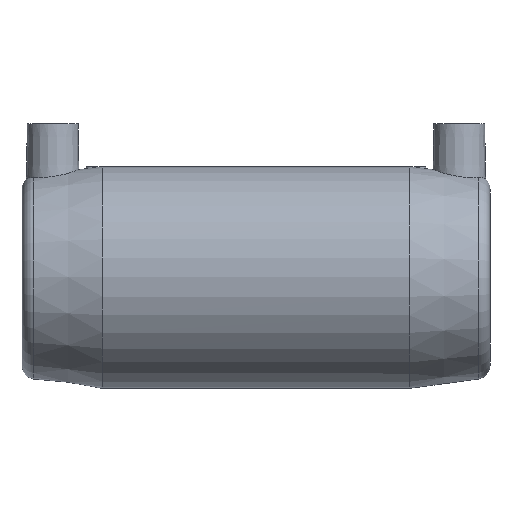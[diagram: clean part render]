
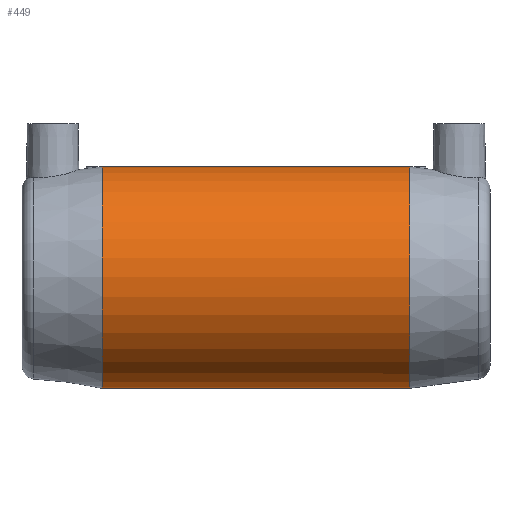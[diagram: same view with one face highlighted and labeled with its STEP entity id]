
A CAD part, front view. The second image highlights one B-rep face of the part: STEP entity #449.
In plain terms, the highlighted cylindrical face has radius 41.5 mm (diameter 83 mm), a full revolution.
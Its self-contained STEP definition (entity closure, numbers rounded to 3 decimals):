
#71=B_SPLINE_CURVE_WITH_KNOTS('',3,(#1060,#1061,#1062,#1063,#1064,#1065,
#1066,#1067,#1068,#1069,#1070,#1071,#1072,#1073,#1074,#1075,#1076,#1077,
#1078,#1079,#1080,#1081,#1082,#1083,#1084,#1085,#1086,#1087,#1088,#1089,
#1090,#1091,#1092,#1093,#1094,#1095,#1096,#1097,#1098,#1099,#1100,#1101,
#1102,#1103,#1104,#1105,#1106,#1107,#1108,#1109,#1110,#1111,#1112,#1113,
#1114,#1115,#1116,#1117,#1118,#1119),.UNSPECIFIED.,.T.,.F.,(1,1,1,1,1,1,
1,1,1,1,1,1,1,1,1,1,1,1,1,1,1,1,1,1,1,1,1,1,1,1,1,1,1,1,1,1,1,1,1,1,1,1,
1,1,1,1,1,1,1,1,1,1,1,1,1,1,1,1,1,1,1,1,1,1),(-0.015,-0.011,
-0.008,0.,0.008,0.011,0.015,
0.023,0.026,0.03,0.034,
0.038,0.041,0.045,0.049,
0.053,0.056,0.06,0.064,
0.068,0.071,0.075,0.079,
0.083,0.087,0.09,0.094,
0.098,0.102,0.105,0.113,
0.117,0.12,0.124,0.128,
0.132,0.135,0.143,0.147,
0.15,0.158,0.162,0.165,
0.169,0.173,0.177,0.181,
0.184,0.188,0.196,0.199,
0.203,0.207,0.211,0.214,
0.218,0.222,0.226,0.229,
0.233,0.241,0.248,0.252,
0.256),.UNSPECIFIED.);
#127=ORIENTED_EDGE('',*,*,#193,.T.);
#128=ORIENTED_EDGE('',*,*,#192,.F.);
#129=ORIENTED_EDGE('',*,*,#197,.T.);
#192=EDGE_CURVE('',#237,#237,#270,.T.);
#193=EDGE_CURVE('',#238,#238,#71,.T.);
#197=EDGE_CURVE('',#242,#242,#273,.T.);
#237=VERTEX_POINT('',#888);
#238=VERTEX_POINT('',#1120);
#242=VERTEX_POINT('',#1137);
#270=CIRCLE('',#513,41.5);
#273=CIRCLE('',#519,41.5);
#325=EDGE_LOOP('',(#127));
#326=EDGE_LOOP('',(#128));
#327=EDGE_LOOP('',(#129));
#393=FACE_BOUND('',#325,.T.);
#394=FACE_BOUND('',#326,.T.);
#395=FACE_BOUND('',#327,.T.);
#423=CYLINDRICAL_SURFACE('',#518,41.5);
#449=ADVANCED_FACE('',(#393,#394,#395),#423,.T.);
#513=AXIS2_PLACEMENT_3D('',#887,#617,#618);
#518=AXIS2_PLACEMENT_3D('',#1135,#627,#628);
#519=AXIS2_PLACEMENT_3D('',#1136,#629,#630);
#617=DIRECTION('',(-1.,0.,0.));
#618=DIRECTION('',(0.,0.,1.));
#627=DIRECTION('',(-1.,0.,0.));
#628=DIRECTION('',(0.,0.,1.));
#629=DIRECTION('',(-1.,0.,0.));
#630=DIRECTION('',(0.,0.,1.));
#887=CARTESIAN_POINT('',(-57.5,0.,0.));
#888=CARTESIAN_POINT('',(-57.5,0.,41.5));
#1060=CARTESIAN_POINT('',(36.545,41.146,-6.291));
#1061=CARTESIAN_POINT('',(37.303,41.736,0.005));
#1062=CARTESIAN_POINT('',(36.546,41.147,6.276));
#1063=CARTESIAN_POINT('',(35.17,40.09,10.917));
#1064=CARTESIAN_POINT('',(33.296,38.669,15.369));
#1065=CARTESIAN_POINT('',(30.836,36.842,19.295));
#1066=CARTESIAN_POINT('',(27.884,34.744,22.759));
#1067=CARTESIAN_POINT('',(25.496,33.107,25.073));
#1068=CARTESIAN_POINT('',(22.923,31.425,27.147));
#1069=CARTESIAN_POINT('',(20.154,29.723,28.996));
#1070=CARTESIAN_POINT('',(17.203,28.058,30.604));
#1071=CARTESIAN_POINT('',(14.109,26.506,31.952));
#1072=CARTESIAN_POINT('',(10.826,25.114,33.051));
#1073=CARTESIAN_POINT('',(7.325,23.977,33.879));
#1074=CARTESIAN_POINT('',(3.709,23.23,34.391));
#1075=CARTESIAN_POINT('',(-0.065,22.968,34.565));
#1076=CARTESIAN_POINT('',(-3.762,23.239,34.385));
#1077=CARTESIAN_POINT('',(-7.434,24.006,33.859));
#1078=CARTESIAN_POINT('',(-10.874,25.134,33.036));
#1079=CARTESIAN_POINT('',(-14.178,26.537,31.927));
#1080=CARTESIAN_POINT('',(-17.287,28.103,30.563));
#1081=CARTESIAN_POINT('',(-20.2,29.751,28.966));
#1082=CARTESIAN_POINT('',(-22.947,31.44,27.13));
#1083=CARTESIAN_POINT('',(-25.55,33.144,25.027));
#1084=CARTESIAN_POINT('',(-27.945,34.787,22.693));
#1085=CARTESIAN_POINT('',(-30.118,36.332,20.132));
#1086=CARTESIAN_POINT('',(-32.064,37.755,17.331));
#1087=CARTESIAN_POINT('',(-34.351,39.463,13.188));
#1088=CARTESIAN_POINT('',(-35.985,40.715,8.667));
#1089=CARTESIAN_POINT('',(-36.855,41.387,3.736));
#1090=CARTESIAN_POINT('',(-37.072,41.556,0.036));
#1091=CARTESIAN_POINT('',(-36.855,41.388,-3.74));
#1092=CARTESIAN_POINT('',(-36.214,40.892,-7.379));
#1093=CARTESIAN_POINT('',(-35.192,40.107,-10.857));
#1094=CARTESIAN_POINT('',(-33.323,38.689,-15.319));
#1095=CARTESIAN_POINT('',(-30.876,36.872,-19.24));
#1096=CARTESIAN_POINT('',(-27.922,34.771,-22.719));
#1097=CARTESIAN_POINT('',(-24.738,32.587,-25.813));
#1098=CARTESIAN_POINT('',(-21.188,30.309,-28.427));
#1099=CARTESIAN_POINT('',(-17.247,28.081,-30.583));
#1100=CARTESIAN_POINT('',(-14.151,26.525,-31.936));
#1101=CARTESIAN_POINT('',(-10.872,25.132,-33.038));
#1102=CARTESIAN_POINT('',(-7.369,23.989,-33.871));
#1103=CARTESIAN_POINT('',(-3.756,23.237,-34.386));
#1104=CARTESIAN_POINT('',(0.022,22.968,-34.565));
#1105=CARTESIAN_POINT('',(3.723,23.233,-34.389));
#1106=CARTESIAN_POINT('',(8.616,24.249,-33.692));
#1107=CARTESIAN_POINT('',(13.099,25.997,-32.395));
#1108=CARTESIAN_POINT('',(17.263,28.089,-30.575));
#1109=CARTESIAN_POINT('',(20.177,29.738,-28.98));
#1110=CARTESIAN_POINT('',(22.926,31.426,-27.146));
#1111=CARTESIAN_POINT('',(25.528,33.128,-25.047));
#1112=CARTESIAN_POINT('',(27.93,34.777,-22.709));
#1113=CARTESIAN_POINT('',(30.105,36.323,-20.149));
#1114=CARTESIAN_POINT('',(32.052,37.746,-17.35));
#1115=CARTESIAN_POINT('',(33.767,39.026,-14.253));
#1116=CARTESIAN_POINT('',(35.161,40.084,-10.939));
#1117=CARTESIAN_POINT('',(36.545,41.146,-6.291));
#1118=CARTESIAN_POINT('',(37.303,41.736,0.005));
#1119=CARTESIAN_POINT('',(36.546,41.147,6.276));
#1120=CARTESIAN_POINT('',(37.,41.5,0.));
#1135=CARTESIAN_POINT('',(-60.,0.,0.));
#1136=CARTESIAN_POINT('',(57.5,0.,0.));
#1137=CARTESIAN_POINT('',(57.5,0.,41.5));
